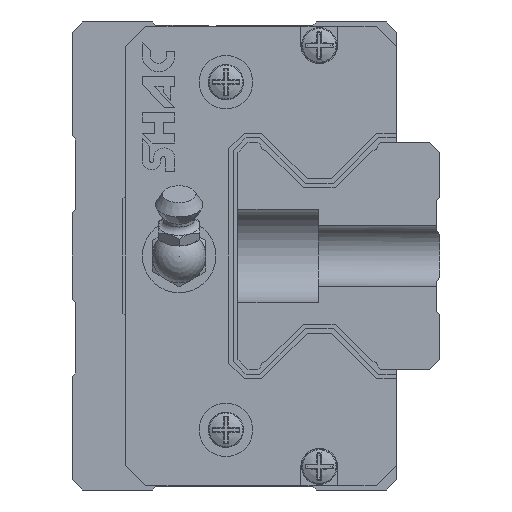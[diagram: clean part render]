
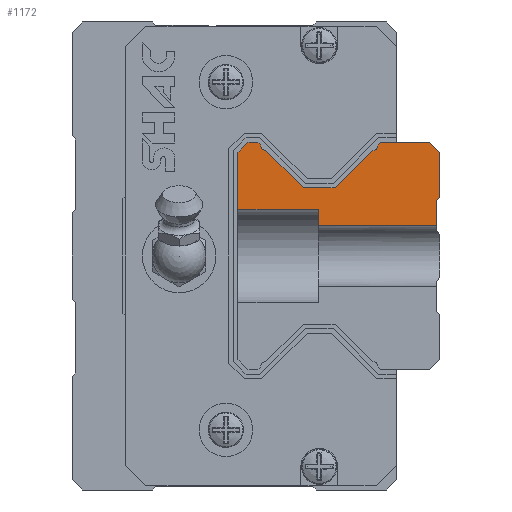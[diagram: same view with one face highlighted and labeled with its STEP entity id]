
A CAD part, left-side view. The second image highlights one B-rep face of the part: STEP entity #1172.
In plain terms, the highlighted planar face has unit normal (-1, 0, 0).
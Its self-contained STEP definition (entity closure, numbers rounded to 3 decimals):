
#1172 = ADVANCED_FACE( '', ( #2528 ), #2529, .F. );
#2528 = FACE_OUTER_BOUND( '', #4185, .T. );
#2529 = PLANE( '', #4186 );
#4185 = EDGE_LOOP( '', ( #7139, #7140, #7141, #7142, #7143, #7144, #7145, #7146, #7147, #7148, #7149, #7150, #7151, #7152, #7153, #7154, #7155, #7156 ) );
#4186 = AXIS2_PLACEMENT_3D( '', #7157, #7158, #7159 );
#7139 = ORIENTED_EDGE( '', *, *, #10996, .F. );
#7140 = ORIENTED_EDGE( '', *, *, #10997, .F. );
#7141 = ORIENTED_EDGE( '', *, *, #10605, .F. );
#7142 = ORIENTED_EDGE( '', *, *, #10852, .F. );
#7143 = ORIENTED_EDGE( '', *, *, #10763, .F. );
#7144 = ORIENTED_EDGE( '', *, *, #10998, .F. );
#7145 = ORIENTED_EDGE( '', *, *, #10999, .F. );
#7146 = ORIENTED_EDGE( '', *, *, #9952, .F. );
#7147 = ORIENTED_EDGE( '', *, *, #11000, .F. );
#7148 = ORIENTED_EDGE( '', *, *, #11001, .T. );
#7149 = ORIENTED_EDGE( '', *, *, #10290, .F. );
#7150 = ORIENTED_EDGE( '', *, *, #11002, .F. );
#7151 = ORIENTED_EDGE( '', *, *, #11003, .F. );
#7152 = ORIENTED_EDGE( '', *, *, #11004, .T. );
#7153 = ORIENTED_EDGE( '', *, *, #10726, .F. );
#7154 = ORIENTED_EDGE( '', *, *, #11005, .F. );
#7155 = ORIENTED_EDGE( '', *, *, #11006, .F. );
#7156 = ORIENTED_EDGE( '', *, *, #11007, .F. );
#7157 = CARTESIAN_POINT( '', ( -100., 25.782, 16.743 ) );
#7158 = DIRECTION( '', ( 1., 0., 0. ) );
#7159 = DIRECTION( '', ( 0., 0., -1. ) );
#9952 = EDGE_CURVE( '', #11827, #11828, #11829, .T. );
#10290 = EDGE_CURVE( '', #12427, #12428, #12429, .T. );
#10605 = EDGE_CURVE( '', #12952, #12954, #12955, .F. );
#10726 = EDGE_CURVE( '', #13144, #13145, #13146, .T. );
#10763 = EDGE_CURVE( '', #13205, #13206, #13207, .T. );
#10852 = EDGE_CURVE( '', #13206, #12952, #13340, .T. );
#10996 = EDGE_CURVE( '', #13556, #13557, #13558, .F. );
#10997 = EDGE_CURVE( '', #12954, #13556, #13559, .T. );
#10998 = EDGE_CURVE( '', #13560, #13205, #13561, .T. );
#10999 = EDGE_CURVE( '', #11828, #13560, #13562, .T. );
#11000 = EDGE_CURVE( '', #13563, #11827, #13564, .T. );
#11001 = EDGE_CURVE( '', #13563, #12428, #13565, .T. );
#11002 = EDGE_CURVE( '', #13566, #12427, #13567, .T. );
#11003 = EDGE_CURVE( '', #13568, #13566, #13569, .T. );
#11004 = EDGE_CURVE( '', #13568, #13145, #13570, .T. );
#11005 = EDGE_CURVE( '', #13571, #13144, #13572, .T. );
#11006 = EDGE_CURVE( '', #13573, #13571, #13574, .T. );
#11007 = EDGE_CURVE( '', #13557, #13573, #13575, .T. );
#11827 = VERTEX_POINT( '', #14596 );
#11828 = VERTEX_POINT( '', #14597 );
#11829 = LINE( '', #14598, #14599 );
#12427 = VERTEX_POINT( '', #15442 );
#12428 = VERTEX_POINT( '', #15443 );
#12429 = LINE( '', #15444, #15445 );
#12952 = VERTEX_POINT( '', #16244 );
#12954 = VERTEX_POINT( '', #16246 );
#12955 = LINE( '', #16247, #16248 );
#13144 = VERTEX_POINT( '', #16529 );
#13145 = VERTEX_POINT( '', #16530 );
#13146 = LINE( '', #16531, #16532 );
#13205 = VERTEX_POINT( '', #16615 );
#13206 = VERTEX_POINT( '', #16616 );
#13207 = LINE( '', #16617, #16618 );
#13340 = LINE( '', #16815, #16816 );
#13556 = VERTEX_POINT( '', #17119 );
#13557 = VERTEX_POINT( '', #17120 );
#13558 = LINE( '', #17121, #17122 );
#13559 = LINE( '', #17123, #17124 );
#13560 = VERTEX_POINT( '', #17125 );
#13561 = LINE( '', #17126, #17127 );
#13562 = LINE( '', #17128, #17129 );
#13563 = VERTEX_POINT( '', #17130 );
#13564 = LINE( '', #17131, #17132 );
#13565 = CIRCLE( '', #17133, 1.067 );
#13566 = VERTEX_POINT( '', #17134 );
#13567 = LINE( '', #17135, #17136 );
#13568 = VERTEX_POINT( '', #17137 );
#13569 = LINE( '', #17138, #17139 );
#13570 = CIRCLE( '', #17140, 1.067 );
#13571 = VERTEX_POINT( '', #17141 );
#13572 = LINE( '', #17142, #17143 );
#13573 = VERTEX_POINT( '', #17144 );
#13574 = LINE( '', #17145, #17146 );
#13575 = LINE( '', #17147, #17148 );
#14596 = CARTESIAN_POINT( '', ( -100., 8.87, 17. ) );
#14597 = CARTESIAN_POINT( '', ( -100., 1.5, 17. ) );
#14598 = CARTESIAN_POINT( '', ( -100., 8.87, 17. ) );
#14599 = VECTOR( '', #18481, 1000. );
#15442 = CARTESIAN_POINT( '', ( -100., 15.67, 10.2 ) );
#15443 = CARTESIAN_POINT( '', ( -100., 10.188, 15.682 ) );
#15444 = CARTESIAN_POINT( '', ( -100., 15.67, 10.2 ) );
#15445 = VECTOR( '', #18844, 1000. );
#16244 = CARTESIAN_POINT( '', ( -100., 0.5, 4.5 ) );
#16246 = CARTESIAN_POINT( '', ( -100., 18.2, 4.5 ) );
#16247 = CARTESIAN_POINT( '', ( -100., 0., 4.5 ) );
#16248 = VECTOR( '', #19185, 1000. );
#16529 = CARTESIAN_POINT( '', ( -100., 27.214, 17. ) );
#16530 = CARTESIAN_POINT( '', ( -100., 26.843, 16.629 ) );
#16531 = CARTESIAN_POINT( '', ( -100., 27.214, 17. ) );
#16532 = VECTOR( '', #19312, 1000. );
#16615 = CARTESIAN_POINT( '', ( -100., 0., 8.75 ) );
#16616 = CARTESIAN_POINT( '', ( -100., 0.5, 8.25 ) );
#16617 = CARTESIAN_POINT( '', ( -100., 0., 8.75 ) );
#16618 = VECTOR( '', #19346, 1000. );
#16815 = CARTESIAN_POINT( '', ( -100., 0.5, 8.25 ) );
#16816 = VECTOR( '', #19439, 1000. );
#17119 = CARTESIAN_POINT( '', ( -100., 18.2, 7. ) );
#17120 = CARTESIAN_POINT( '', ( -100., 30.2, 7. ) );
#17121 = CARTESIAN_POINT( '', ( -100., 0., 7. ) );
#17122 = VECTOR( '', #19587, 1000. );
#17123 = CARTESIAN_POINT( '', ( -100., 18.2, 16.743 ) );
#17124 = VECTOR( '', #19588, 1000. );
#17125 = CARTESIAN_POINT( '', ( -100., 0., 15.5 ) );
#17126 = CARTESIAN_POINT( '', ( -100., 0., 15.5 ) );
#17127 = VECTOR( '', #19589, 1000. );
#17128 = CARTESIAN_POINT( '', ( -100., 1.5, 17. ) );
#17129 = VECTOR( '', #19590, 1000. );
#17130 = CARTESIAN_POINT( '', ( -100., 9.241, 16.629 ) );
#17131 = CARTESIAN_POINT( '', ( -100., 9.241, 16.629 ) );
#17132 = VECTOR( '', #19591, 1000. );
#17133 = AXIS2_PLACEMENT_3D( '', #19592, #19593, #19594 );
#17134 = CARTESIAN_POINT( '', ( -100., 20.414, 10.2 ) );
#17135 = CARTESIAN_POINT( '', ( -100., 20.414, 10.2 ) );
#17136 = VECTOR( '', #19595, 1000. );
#17137 = CARTESIAN_POINT( '', ( -100., 25.896, 15.682 ) );
#17138 = CARTESIAN_POINT( '', ( -100., 25.896, 15.682 ) );
#17139 = VECTOR( '', #19596, 1000. );
#17140 = AXIS2_PLACEMENT_3D( '', #19597, #19598, #19599 );
#17141 = CARTESIAN_POINT( '', ( -100., 28.707, 17. ) );
#17142 = CARTESIAN_POINT( '', ( -100., 28.707, 17. ) );
#17143 = VECTOR( '', #19600, 1000. );
#17144 = CARTESIAN_POINT( '', ( -100., 30.2, 15.507 ) );
#17145 = CARTESIAN_POINT( '', ( -100., 30.2, 15.507 ) );
#17146 = VECTOR( '', #19601, 1000. );
#17147 = CARTESIAN_POINT( '', ( -100., 30.2, -15.507 ) );
#17148 = VECTOR( '', #19602, 1000. );
#18481 = DIRECTION( '', ( 0., -1., 0. ) );
#18844 = DIRECTION( '', ( 0., -0.707, 0.707 ) );
#19185 = DIRECTION( '', ( 0., -1., 0. ) );
#19312 = DIRECTION( '', ( 0., -0.707, -0.707 ) );
#19346 = DIRECTION( '', ( 0., 0.707, -0.707 ) );
#19439 = DIRECTION( '', ( 0., 0., -1. ) );
#19587 = DIRECTION( '', ( 0., -1., 0. ) );
#19588 = DIRECTION( '', ( 0., 0., 1. ) );
#19589 = DIRECTION( '', ( 0., 0., -1. ) );
#19590 = DIRECTION( '', ( 0., -0.707, -0.707 ) );
#19591 = DIRECTION( '', ( 0., -0.707, 0.707 ) );
#19592 = CARTESIAN_POINT( '', ( -100., 10.302, 16.743 ) );
#19593 = DIRECTION( '', ( 1., 0., 0. ) );
#19594 = DIRECTION( '', ( 0., 0., -1. ) );
#19595 = DIRECTION( '', ( 0., -1., 0. ) );
#19596 = DIRECTION( '', ( 0., -0.707, -0.707 ) );
#19597 = CARTESIAN_POINT( '', ( -100., 25.782, 16.743 ) );
#19598 = DIRECTION( '', ( 1., 0., 0. ) );
#19599 = DIRECTION( '', ( 0., 0., -1. ) );
#19600 = DIRECTION( '', ( 0., -1., 0. ) );
#19601 = DIRECTION( '', ( 0., -0.707, 0.707 ) );
#19602 = DIRECTION( '', ( 0., 0., 1. ) );
